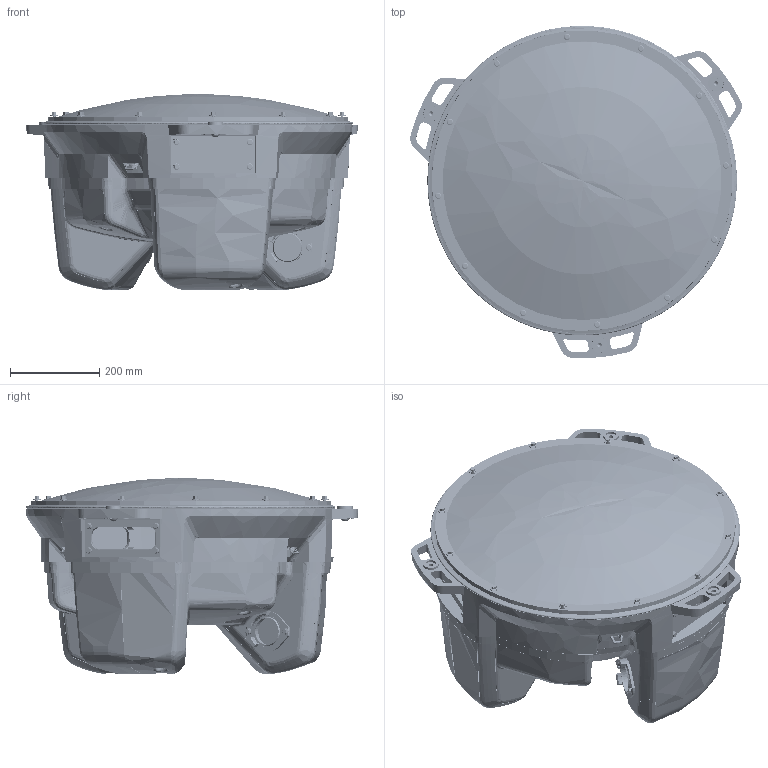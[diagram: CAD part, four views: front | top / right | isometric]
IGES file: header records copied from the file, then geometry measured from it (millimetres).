
Start section: SolidWorks IGES file using analytic representation for surfaces
Global section: file name: C:\Users\SELUHAA\Desktop\Work items\545792\IGES\IRB360_X-1130-STD-4D_rev03_IGES_J\IRB360_X-1130-STD-4D_rev03_BASE_CAD.IGS; native system: SolidWorks 2022; preprocessor: SolidWorks 2022; author: SELUHAA; date: 240115.131753; units: millimetre
Bounding box: 742.52 x 743.31 x 438 mm (x, y, z)
Surface area: 3653386 mm2 (no closed solid volume)
Topology: 0 solids, 0 shells, 2894 faces, 43106 edges, 43055 vertices
Faces by surface type: bspline 1531, revolution 1363
